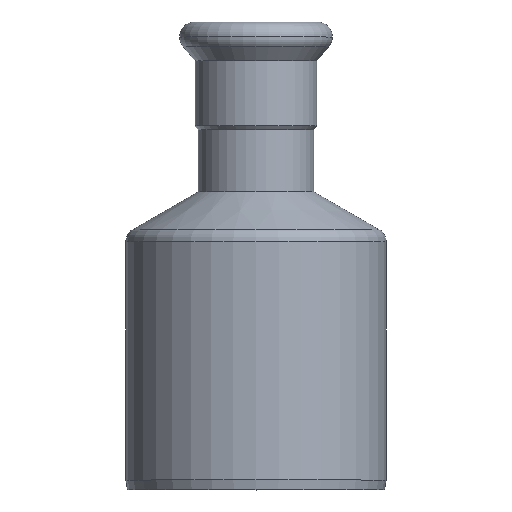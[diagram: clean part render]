
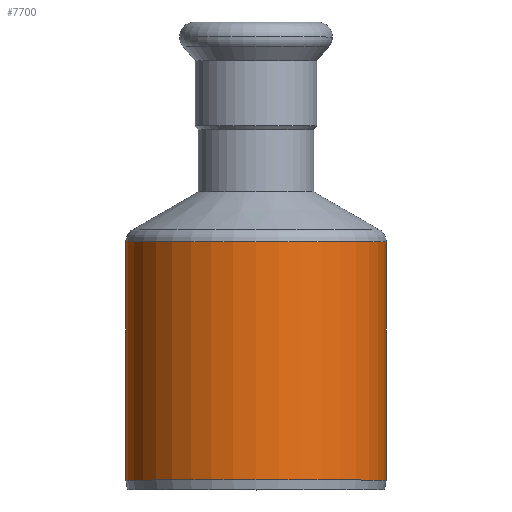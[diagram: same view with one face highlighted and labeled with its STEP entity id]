
A CAD part, top view. The second image highlights one B-rep face of the part: STEP entity #7700.
In plain terms, the highlighted cylindrical face has radius 27 mm (diameter 54 mm), a partial arc.
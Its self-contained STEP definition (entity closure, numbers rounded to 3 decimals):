
#110=CARTESIAN_POINT('',(-229.976,19.529,0.));
#120=VERTEX_POINT('',#110);
#310=CARTESIAN_POINT('',(-175.976,19.529,0.));
#320=VERTEX_POINT('',#310);
#350=CARTESIAN_POINT('',(-202.976,19.529,0.));
#360=DIRECTION('',(0.,-1.,0.));
#370=DIRECTION('',(-1.,0.,0.));
#380=AXIS2_PLACEMENT_3D('',#350,#360,#370);
#390=CIRCLE('',#380,27.);
#400=EDGE_CURVE('',#320,#120,#390,.T.);
#1830=CARTESIAN_POINT('',(-202.976,33.421,0.));
#1840=DIRECTION('',(0.,-1.,0.));
#1850=DIRECTION('',(1.,0.,0.));
#1860=AXIS2_PLACEMENT_3D('',#1830,#1840,#1850);
#1870=CYLINDRICAL_SURFACE('',#1860,27.);
#1880=CARTESIAN_POINT('',(-175.976,33.421,0.));
#1890=DIRECTION('',(0.,-1.,0.));
#1900=VECTOR('',#1890,1.);
#1910=LINE('',#1880,#1900);
#1920=CARTESIAN_POINT('',(-175.976,-29.879,0.));
#1930=VERTEX_POINT('',#1920);
#1940=EDGE_CURVE('',#320,#1930,#1910,.T.);
#1980=CARTESIAN_POINT('',(-229.976,33.421,
0.));
#1990=DIRECTION('',(0.,-1.,0.));
#2000=VECTOR('',#1990,1.);
#2010=LINE('',#1980,#2000);
#2020=CARTESIAN_POINT('',(-229.976,-29.879,
0.));
#2030=VERTEX_POINT('',#2020);
#2040=EDGE_CURVE('',#120,#2030,#2010,.T.);
#2060=CARTESIAN_POINT('',(-202.976,-29.879,0.));
#2070=DIRECTION('',(0.,-1.,0.));
#2080=DIRECTION('',(-1.,0.,0.));
#2090=AXIS2_PLACEMENT_3D('',#2060,#2070,#2080);
#2100=CIRCLE('',#2090,27.);
#6700=EDGE_CURVE('',#1930,#2030,#2100,.T.);
#7640=ORIENTED_EDGE('',*,*,#1940,.F.);
#7650=ORIENTED_EDGE('',*,*,#6700,.F.);
#7660=ORIENTED_EDGE('',*,*,#2040,.T.);
#7670=ORIENTED_EDGE('',*,*,#400,.T.);
#7680=EDGE_LOOP('',(#7670,#7660,#7650,#7640));
#7690=FACE_OUTER_BOUND('',#7680,.T.);
#7700=ADVANCED_FACE('',(#7690),#1870,.T.);
